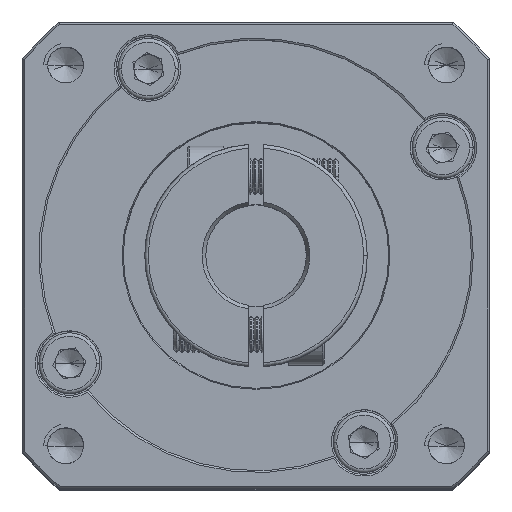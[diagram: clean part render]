
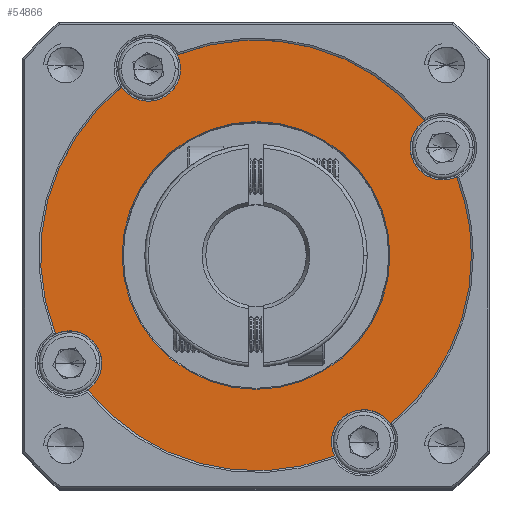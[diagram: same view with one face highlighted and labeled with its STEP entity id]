
A CAD part, top view. The second image highlights one B-rep face of the part: STEP entity #54866.
In plain terms, the highlighted planar face has unit normal (0, 0, 1).
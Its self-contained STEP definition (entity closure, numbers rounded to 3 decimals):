
#444 = CARTESIAN_POINT ( 'NONE',  ( -18.604, 33.354, 1.199 ) ) ;
#3541 = ORIENTED_EDGE ( 'NONE', *, *, #32004, .T. ) ;
#5887 = AXIS2_PLACEMENT_3D ( 'NONE', #29176, #9613, #108601 ) ;
#6175 = CARTESIAN_POINT ( 'NONE',  ( -18.531, 9.909, 1.199 ) ) ;
#6394 = AXIS2_PLACEMENT_3D ( 'NONE', #73062, #54370, #24527 ) ;
#6537 = CARTESIAN_POINT ( 'NONE',  ( -55.892, 33.354, 1.199 ) ) ;
#6608 = DIRECTION ( 'NONE',  ( 0., 0., 1. ) ) ;
#7642 = ORIENTED_EDGE ( 'NONE', *, *, #85477, .T. ) ;
#9053 = CARTESIAN_POINT ( 'NONE',  ( -52.248, 59.335, 1.199 ) ) ;
#9613 = DIRECTION ( 'NONE',  ( 0., 0., 1. ) ) ;
#10634 = CIRCLE ( 'NONE', #112134, 30. ) ;
#11095 = VERTEX_POINT ( 'NONE', #13328 ) ;
#11230 = CARTESIAN_POINT ( 'NONE',  ( -48.193, 61.286, 1.199 ) ) ;
#12090 = CARTESIAN_POINT ( 'NONE',  ( -15.767, 48.354, 1.199 ) ) ;
#13205 = EDGE_CURVE ( 'NONE', #79593, #11095, #27063, .T. ) ;
#13328 = CARTESIAN_POINT ( 'NONE',  ( -26.303, 5.422, 1.199 ) ) ;
#13858 = ORIENTED_EDGE ( 'NONE', *, *, #47641, .T. ) ;
#14901 = CARTESIAN_POINT ( 'NONE',  ( -58.729, 18.354, 1.199 ) ) ;
#15007 = CARTESIAN_POINT ( 'NONE',  ( -65.18, 22.409, 1.199 ) ) ;
#16652 = CIRCLE ( 'NONE', #6394, 30. ) ;
#17986 = ORIENTED_EDGE ( 'NONE', *, *, #70571, .F. ) ;
#18036 = CARTESIAN_POINT ( 'NONE',  ( -55.965, 56.799, 1.199 ) ) ;
#18675 = ORIENTED_EDGE ( 'NONE', *, *, #92285, .T. ) ;
#19467 = DIRECTION ( 'NONE',  ( 0., 0., 1. ) ) ;
#20768 = AXIS2_PLACEMENT_3D ( 'NONE', #45391, #73561, #102251 ) ;
#21130 = DIRECTION ( 'NONE',  ( 0., 0., 1. ) ) ;
#22223 = DIRECTION ( 'NONE',  ( 0., 0., 1. ) ) ;
#22329 = CARTESIAN_POINT ( 'NONE',  ( -7.248, 33.354, 1.199 ) ) ;
#24527 = DIRECTION ( 'NONE',  ( 1., 0., 0. ) ) ;
#24945 = VERTEX_POINT ( 'NONE', #115941 ) ;
#25717 = DIRECTION ( 'NONE',  ( 1., 0., 0. ) ) ;
#27063 = CIRCLE ( 'NONE', #20768, 4.5 ) ;
#27818 = ORIENTED_EDGE ( 'NONE', *, *, #99025, .F. ) ;
#29176 = CARTESIAN_POINT ( 'NONE',  ( -63.229, 18.354, 1.199 ) ) ;
#29715 = DIRECTION ( 'NONE',  ( 0., 0., 1. ) ) ;
#30613 = VERTEX_POINT ( 'NONE', #15007 ) ;
#32004 = EDGE_CURVE ( 'NONE', #53753, #30613, #119084, .T. ) ;
#33586 = ORIENTED_EDGE ( 'NONE', *, *, #98953, .T. ) ;
#34031 = CARTESIAN_POINT ( 'NONE',  ( -37.248, 33.354, 1.199 ) ) ;
#34285 = DIRECTION ( 'NONE',  ( 0., 0., 1. ) ) ;
#35137 = CIRCLE ( 'NONE', #106076, 4.5 ) ;
#35608 = DIRECTION ( 'NONE',  ( 1., 0., 0. ) ) ;
#37251 = VERTEX_POINT ( 'NONE', #14901 ) ;
#37979 = EDGE_CURVE ( 'NONE', #55943, #79593, #106516, .T. ) ;
#39870 = CARTESIAN_POINT ( 'NONE',  ( -37.248, 33.354, 1.199 ) ) ;
#39993 = CARTESIAN_POINT ( 'NONE',  ( -60.693, 14.637, 1.199 ) ) ;
#40049 = DIRECTION ( 'NONE',  ( 1., 0., 0. ) ) ;
#41410 = AXIS2_PLACEMENT_3D ( 'NONE', #77154, #80963, #40049 ) ;
#45329 = ORIENTED_EDGE ( 'NONE', *, *, #89799, .F. ) ;
#45391 = CARTESIAN_POINT ( 'NONE',  ( -22.248, 7.373, 1.199 ) ) ;
#46508 = ORIENTED_EDGE ( 'NONE', *, *, #121577, .T. ) ;
#46695 = CARTESIAN_POINT ( 'NONE',  ( -47.748, 59.335, 1.199 ) ) ;
#47641 = EDGE_CURVE ( 'NONE', #58475, #87273, #88673, .T. ) ;
#47692 = ORIENTED_EDGE ( 'NONE', *, *, #37979, .F. ) ;
#48157 = ORIENTED_EDGE ( 'NONE', *, *, #13205, .F. ) ;
#48433 = CARTESIAN_POINT ( 'NONE',  ( -37.248, 33.354, 1.199 ) ) ;
#49111 = CARTESIAN_POINT ( 'NONE',  ( -26.748, 7.373, 1.199 ) ) ;
#50147 = DIRECTION ( 'NONE',  ( 1., 0., 0. ) ) ;
#50412 = EDGE_CURVE ( 'NONE', #37251, #30613, #120149, .T. ) ;
#50757 = AXIS2_PLACEMENT_3D ( 'NONE', #109922, #21130, #51379 ) ;
#51379 = DIRECTION ( 'NONE',  ( 1., 0., 0. ) ) ;
#52399 = FACE_OUTER_BOUND ( 'NONE', #72280, .T. ) ;
#53156 = CIRCLE ( 'NONE', #50757, 4.5 ) ;
#53753 = VERTEX_POINT ( 'NONE', #18036 ) ;
#54370 = DIRECTION ( 'NONE',  ( 0., 0., 1. ) ) ;
#54866 = ADVANCED_FACE ( 'NONE', ( #78369, #52399 ), #81528, .T. ) ;
#55943 = VERTEX_POINT ( 'NONE', #6175 ) ;
#56370 = EDGE_LOOP ( 'NONE', ( #46508, #69750 ) ) ;
#57883 = VERTEX_POINT ( 'NONE', #444 ) ;
#58475 = VERTEX_POINT ( 'NONE', #22329 ) ;
#58802 = CIRCLE ( 'NONE', #96675, 18.644 ) ;
#61320 = AXIS2_PLACEMENT_3D ( 'NONE', #117531, #98757, #89765 ) ;
#61395 = ORIENTED_EDGE ( 'NONE', *, *, #120692, .F. ) ;
#62683 = ORIENTED_EDGE ( 'NONE', *, *, #50412, .F. ) ;
#65061 = CIRCLE ( 'NONE', #5887, 4.5 ) ;
#68717 = CARTESIAN_POINT ( 'NONE',  ( -9.316, 44.299, 1.199 ) ) ;
#68904 = CIRCLE ( 'NONE', #113320, 30. ) ;
#69750 = ORIENTED_EDGE ( 'NONE', *, *, #125998, .T. ) ;
#69778 = DIRECTION ( 'NONE',  ( 0., 0., 1. ) ) ;
#70201 = DIRECTION ( 'NONE',  ( 1., 0., 0. ) ) ;
#70571 = EDGE_CURVE ( 'NONE', #24945, #73036, #125690, .T. ) ;
#72068 = DIRECTION ( 'NONE',  ( 0., 0., 1. ) ) ;
#72280 = EDGE_LOOP ( 'NONE', ( #61395, #33586, #48157, #47692, #18675, #13858, #27818, #17986, #7642, #102314, #45329, #3541, #62683 ) ) ;
#73036 = VERTEX_POINT ( 'NONE', #12090 ) ;
#73062 = CARTESIAN_POINT ( 'NONE',  ( -37.248, 33.354, 1.199 ) ) ;
#73544 = CIRCLE ( 'NONE', #61320, 18.644 ) ;
#73561 = DIRECTION ( 'NONE',  ( 0., 0., 1. ) ) ;
#74120 = VERTEX_POINT ( 'NONE', #46695 ) ;
#75395 = AXIS2_PLACEMENT_3D ( 'NONE', #84657, #6608, #35608 ) ;
#76796 = DIRECTION ( 'NONE',  ( 0., 0., 1. ) ) ;
#77154 = CARTESIAN_POINT ( 'NONE',  ( -11.267, 48.354, 1.199 ) ) ;
#77933 = AXIS2_PLACEMENT_3D ( 'NONE', #9053, #76796, #116104 ) ;
#78327 = CARTESIAN_POINT ( 'NONE',  ( -52.248, 59.335, 1.199 ) ) ;
#78369 = FACE_BOUND ( 'NONE', #56370, .T. ) ;
#79189 = DIRECTION ( 'NONE',  ( 1., 0., 0. ) ) ;
#79593 = VERTEX_POINT ( 'NONE', #49111 ) ;
#79974 = AXIS2_PLACEMENT_3D ( 'NONE', #118890, #69778, #70201 ) ;
#80963 = DIRECTION ( 'NONE',  ( 0., 0., 1. ) ) ;
#81528 = PLANE ( 'NONE',  #107099 ) ;
#82219 = DIRECTION ( 'NONE',  ( 1., 0., 0. ) ) ;
#84657 = CARTESIAN_POINT ( 'NONE',  ( -22.248, 7.373, 1.199 ) ) ;
#85477 = EDGE_CURVE ( 'NONE', #24945, #122360, #68904, .T. ) ;
#87273 = VERTEX_POINT ( 'NONE', #68717 ) ;
#88673 = CIRCLE ( 'NONE', #79974, 30. ) ;
#89765 = DIRECTION ( 'NONE',  ( 1., 0., 0. ) ) ;
#89799 = EDGE_CURVE ( 'NONE', #53753, #74120, #115893, .T. ) ;
#90205 = DIRECTION ( 'NONE',  ( 1., 0., 0. ) ) ;
#92098 = EDGE_CURVE ( 'NONE', #74120, #122360, #35137, .T. ) ;
#92285 = EDGE_CURVE ( 'NONE', #55943, #58475, #16652, .T. ) ;
#92596 = AXIS2_PLACEMENT_3D ( 'NONE', #120319, #22223, #100315 ) ;
#96675 = AXIS2_PLACEMENT_3D ( 'NONE', #34031, #102707, #82219 ) ;
#98757 = DIRECTION ( 'NONE',  ( 0., 0., -1. ) ) ;
#98761 = DIRECTION ( 'NONE',  ( 0., 0., 1. ) ) ;
#98953 = EDGE_CURVE ( 'NONE', #124038, #11095, #10634, .T. ) ;
#99025 = EDGE_CURVE ( 'NONE', #73036, #87273, #53156, .T. ) ;
#100315 = DIRECTION ( 'NONE',  ( 1., 0., 0. ) ) ;
#101595 = CARTESIAN_POINT ( 'NONE',  ( -37.248, 33.354, 1.199 ) ) ;
#102251 = DIRECTION ( 'NONE',  ( 1., 0., 0. ) ) ;
#102314 = ORIENTED_EDGE ( 'NONE', *, *, #92098, .F. ) ;
#102538 = CARTESIAN_POINT ( 'NONE',  ( -37.248, 33.354, 1.199 ) ) ;
#102707 = DIRECTION ( 'NONE',  ( 0., 0., -1. ) ) ;
#106076 = AXIS2_PLACEMENT_3D ( 'NONE', #78327, #29715, #79189 ) ;
#106516 = CIRCLE ( 'NONE', #75395, 4.5 ) ;
#107099 = AXIS2_PLACEMENT_3D ( 'NONE', #101595, #72068, #109803 ) ;
#108601 = DIRECTION ( 'NONE',  ( 1., 0., 0. ) ) ;
#109803 = DIRECTION ( 'NONE',  ( 1., 0., 0. ) ) ;
#109922 = CARTESIAN_POINT ( 'NONE',  ( -11.267, 48.354, 1.199 ) ) ;
#112134 = AXIS2_PLACEMENT_3D ( 'NONE', #39870, #98761, #50147 ) ;
#113320 = AXIS2_PLACEMENT_3D ( 'NONE', #102538, #34285, #25717 ) ;
#115893 = CIRCLE ( 'NONE', #77933, 4.5 ) ;
#115941 = CARTESIAN_POINT ( 'NONE',  ( -13.803, 52.071, 1.199 ) ) ;
#116104 = DIRECTION ( 'NONE',  ( 1., 0., 0. ) ) ;
#117531 = CARTESIAN_POINT ( 'NONE',  ( -37.248, 33.354, 1.199 ) ) ;
#118890 = CARTESIAN_POINT ( 'NONE',  ( -37.248, 33.354, 1.199 ) ) ;
#119084 = CIRCLE ( 'NONE', #123303, 30. ) ;
#120149 = CIRCLE ( 'NONE', #92596, 4.5 ) ;
#120319 = CARTESIAN_POINT ( 'NONE',  ( -63.229, 18.354, 1.199 ) ) ;
#120692 = EDGE_CURVE ( 'NONE', #124038, #37251, #65061, .T. ) ;
#121577 = EDGE_CURVE ( 'NONE', #57883, #122113, #58802, .T. ) ;
#122113 = VERTEX_POINT ( 'NONE', #6537 ) ;
#122360 = VERTEX_POINT ( 'NONE', #11230 ) ;
#123303 = AXIS2_PLACEMENT_3D ( 'NONE', #48433, #19467, #90205 ) ;
#124038 = VERTEX_POINT ( 'NONE', #39993 ) ;
#125690 = CIRCLE ( 'NONE', #41410, 4.5 ) ;
#125998 = EDGE_CURVE ( 'NONE', #122113, #57883, #73544, .T. ) ;
